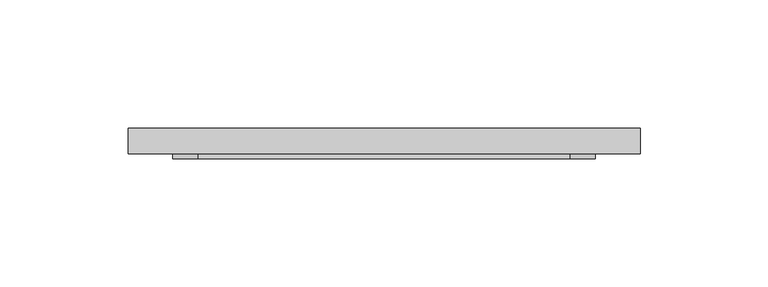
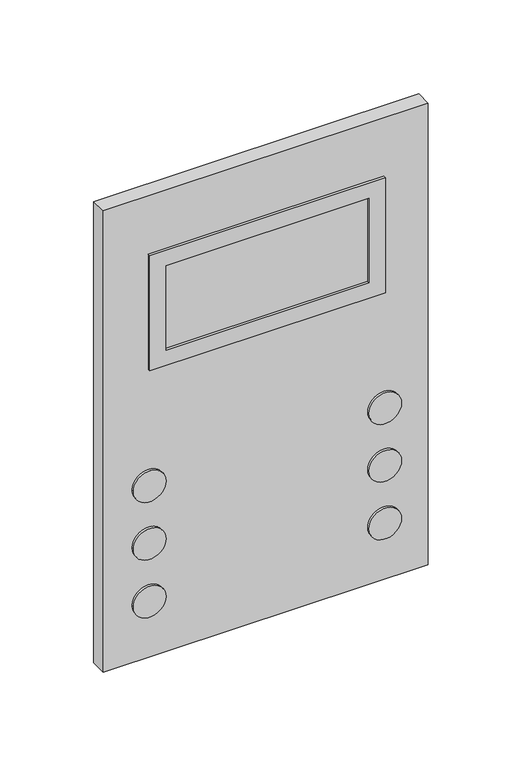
"""IFC4 building model written with IfcOpenShell, lengths in millimetres: proxy geometry, ZYR_08.01.02 Interfon : 01 Interfon Tipus 1."""

from ifc_helpers import new_model, si_unit, point, frame, frame_2d, origin, place, context, project, spatial, polyline, circle_curve, trimmed, segment, composite_curve, outline, extrude, source, transform, mapped, element, save


def communication_devices_fab7495f(model_context):
    return source(origin(), model_context, "Body", "SweptSolid", [
        extrude(outline(polyline([(100.0, -10.0), (-100.0, -10.0), (-100.0, 0.0), (100.0, 0.0), (100.0, -10.0)])), frame((0.0, 0.0, -150.0), z_axis=(0.0, 0.0, 1.0), x_axis=(1.0, 0.0, 0.0)), (0.0, 0.0, 1.0), 300.0),
        extrude(outline(composite_curve([segment(trimmed(circle_curve(frame_2d((-37.5, -72.5005438)), 10.0), [point((-37.5, -82.5005438))], [point((-37.5, -62.5005438))], False, "CARTESIAN"), True, "CONTINUOUS"), segment(trimmed(circle_curve(frame_2d((-37.5, -72.5005438)), 10.0), [point((-37.5, -62.5005438))], [point((-37.5, -82.5005438))], False, "CARTESIAN"), True, "CONTINUOUS")], self_intersect=False)), frame((0.0, -12.0, 0.0), z_axis=(0.0, 1.0, 0.0), x_axis=(0.0, 0.0, 1.0)), (0.0, 0.0, 1.0), 2.0),
        extrude(outline(composite_curve([segment(trimmed(circle_curve(frame_2d((-37.5, 72.5005438)), 10.0), [point((-37.5, 62.5005438))], [point((-37.5, 82.5005438))], False, "CARTESIAN"), True, "CONTINUOUS"), segment(trimmed(circle_curve(frame_2d((-37.5, 72.5005438)), 10.0), [point((-37.5, 82.5005438))], [point((-37.5, 62.5005438))], False, "CARTESIAN"), True, "CONTINUOUS")], self_intersect=False)), frame((0.0, -12.0, 0.0), z_axis=(0.0, 1.0, 0.0), x_axis=(0.0, 0.0, 1.0)), (0.0, 0.0, 1.0), 2.0),
        extrude(outline(composite_curve([segment(trimmed(circle_curve(frame_2d((-75.0, -72.5005438)), 10.0), [point((-75.0, -82.5005438))], [point((-75.0, -62.5005438))], False, "CARTESIAN"), True, "CONTINUOUS"), segment(trimmed(circle_curve(frame_2d((-75.0, -72.5005438)), 10.0), [point((-75.0, -62.5005438))], [point((-75.0, -82.5005438))], False, "CARTESIAN"), True, "CONTINUOUS")], self_intersect=False)), frame((0.0, -12.0, 0.0), z_axis=(0.0, 1.0, 0.0), x_axis=(0.0, 0.0, 1.0)), (0.0, 0.0, 1.0), 2.0),
        extrude(outline(composite_curve([segment(trimmed(circle_curve(frame_2d((-75.0, 72.5005438)), 10.0), [point((-75.0, 62.5005438))], [point((-75.0, 82.5005438))], False, "CARTESIAN"), True, "CONTINUOUS"), segment(trimmed(circle_curve(frame_2d((-75.0, 72.5005438)), 10.0), [point((-75.0, 82.5005438))], [point((-75.0, 62.5005438))], False, "CARTESIAN"), True, "CONTINUOUS")], self_intersect=False)), frame((0.0, -12.0, 0.0), z_axis=(0.0, 1.0, 0.0), x_axis=(0.0, 0.0, 1.0)), (0.0, 0.0, 1.0), 2.0),
        extrude(outline(composite_curve([segment(trimmed(circle_curve(frame_2d((-112.5, -72.5005438)), 10.0), [point((-112.5, -82.5005438))], [point((-112.5, -62.5005438))], False, "CARTESIAN"), True, "CONTINUOUS"), segment(trimmed(circle_curve(frame_2d((-112.5, -72.5005438)), 10.0), [point((-112.5, -62.5005438))], [point((-112.5, -82.5005438))], False, "CARTESIAN"), True, "CONTINUOUS")], self_intersect=False)), frame((0.0, -12.0, 0.0), z_axis=(0.0, 1.0, 0.0), x_axis=(0.0, 0.0, 1.0)), (0.0, 0.0, 1.0), 2.0),
        extrude(outline(composite_curve([segment(trimmed(circle_curve(frame_2d((-112.5, 72.5005438)), 10.0), [point((-112.5, 62.5005438))], [point((-112.5, 82.5005438))], False, "CARTESIAN"), True, "CONTINUOUS"), segment(trimmed(circle_curve(frame_2d((-112.5, 72.5005438)), 10.0), [point((-112.5, 82.5005438))], [point((-112.5, 62.5005438))], False, "CARTESIAN"), True, "CONTINUOUS")], self_intersect=False)), frame((0.0, -12.0, 0.0), z_axis=(0.0, 1.0, 0.0), x_axis=(0.0, 0.0, 1.0)), (0.0, 0.0, 1.0), 2.0),
        extrude(outline(polyline([(112.5, 72.5005438), (112.5, -72.5005438), (37.5, -72.5005438), (37.5, 72.5005438), (112.5, 72.5005438)]), holes=[polyline([(102.5, 62.5005438), (47.5, 62.5005438), (47.5, -62.5005438), (102.5, -62.5005438), (102.5, 62.5005438)])]), frame((0.0, -12.0, 0.0), z_axis=(0.0, 1.0, 0.0), x_axis=(0.0, 0.0, 1.0)), (0.0, 0.0, 1.0), 2.0),
    ])


if __name__ == "__main__":
    model = new_model("IFC4")
    model_context = context("Model", 3, world=origin())
    ifc_project = project(units=[si_unit("LENGTHUNIT", "METRE", prefix="MILLI")], contexts=[model_context])
    site = spatial("IfcSite", under=ifc_project)
    building = spatial("IfcBuilding", under=site)
    placement = place(None, origin())
    communication_devices_shape = communication_devices_fab7495f(model_context)
    element("IfcBuildingElementProxy", 1, Name="ZYR_08.01.02 Interfon : 01 Interfon Tipus 1", ObjectType="ZYR_08.01.02 Interfon : 01 Interfon Tipus 1", at=placement, inside=building, context=model_context, shape_type="MappedRepresentation", body=[
        mapped(communication_devices_shape, transform((0.0, 0.0, 0.0), x_axis=(1.0, 0.0, 0.0), y_axis=(0.0, 1.0, 0.0), z_axis=(0.0, 0.0, 1.0))),
    ])
    save(model, "model.ifc")
